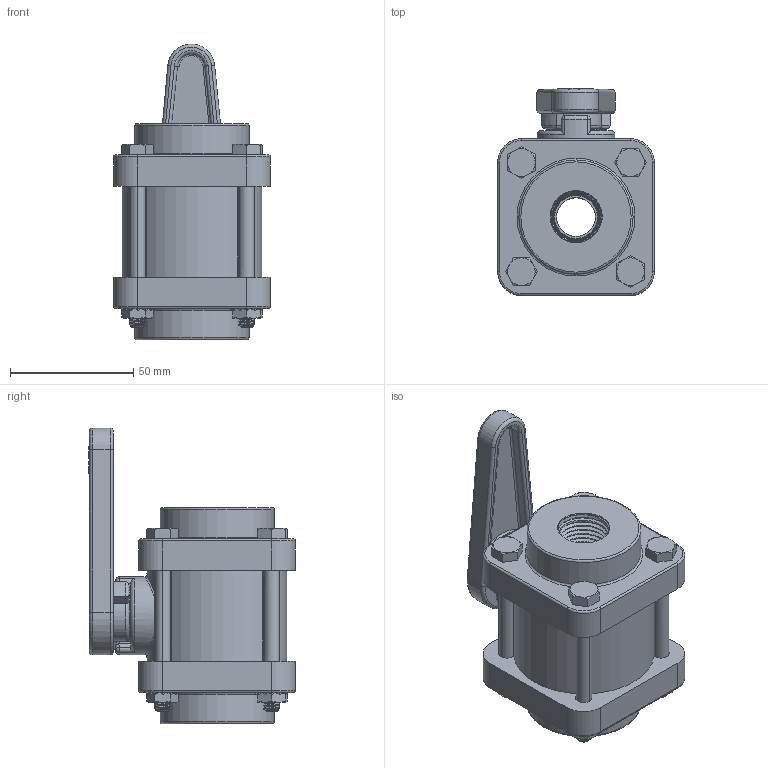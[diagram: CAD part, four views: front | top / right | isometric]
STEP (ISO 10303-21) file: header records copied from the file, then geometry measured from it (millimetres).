
FILE_DESCRIPTION(/* description */ ('Alibre Inc.'),/* implementation_level */ '2;1');
FILE_NAME(/* name */ 'export0',/* time_stamp */ '2017-04-07T13:30:08-04:00',/* author */ (''),/* organization */ (''),/* preprocessor_version */ 'ST-DEVELOPER v14',/* originating_system */ 'Alibre',/* authorisation */ '');
FILE_SCHEMA (('CONFIG_CONTROL_DESIGN'));
Products named in the file (13): ID_1; ID_2; ID_3; ID_4; ID_5; ID_6; ID_7; ID_8; ID_9; ID_10
Bounding box: 63.5 x 83.84 x 119.86 mm (x, y, z)
Volume: 234782.8 mm3; surface area: 81010.7 mm2
Topology: 23 solids, 23 shells, 1320 faces, 3437 edges, 2191 vertices
Faces by surface type: cylinder 424, plane 346, bspline 300, cone 191, torus 43, sphere 16
Full cylindrical faces by diameter (mm): 3.302 x1, 4.826 x1, 6.604 x8, 8.179 x1, 9.144 x1, 12.751 x1, 12.827 x1, 12.954 x1, 15.748 x2, 17.272 x2, 19.05 x1, 20.447 x1, 20.574 x1, 20.828 x2, 31.496 x1, 40.894 x2, 41.402 x1, 46.228 x2, 47.498 x4
Entity records: 47650 total; most frequent: CARTESIAN_POINT 31718, ORIENTED_EDGE 3356, DIRECTION 2242, EDGE_CURVE 1678, VERTEX_POINT 1097, AXIS2_PLACEMENT_3D 882, FACE_BOUND 757, EDGE_LOOP 756
